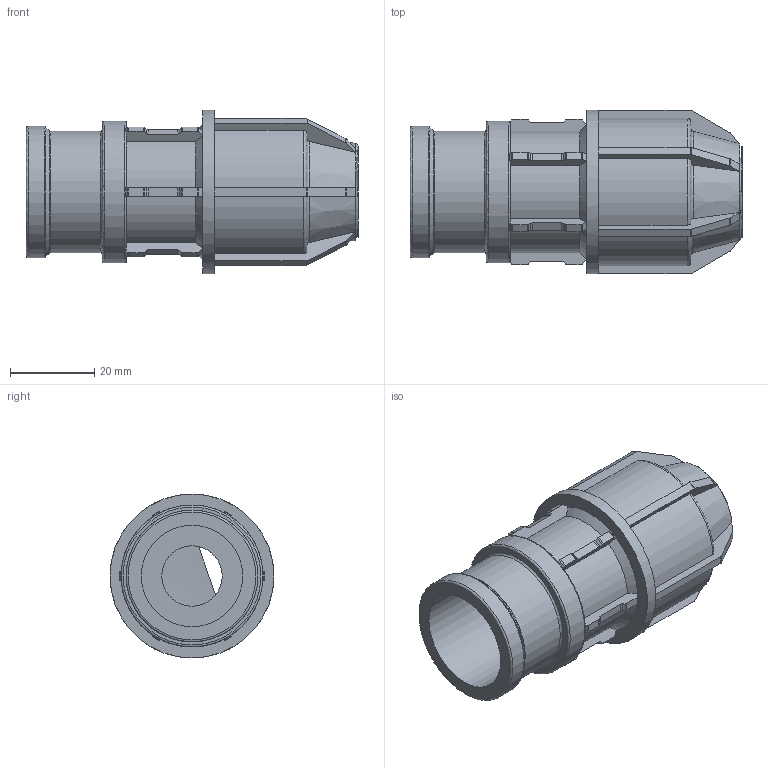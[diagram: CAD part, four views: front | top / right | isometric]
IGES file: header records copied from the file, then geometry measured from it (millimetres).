
Global section: file name: 140300016007.ipt; native system: Autodesk Inventor 2015; preprocessor: unknown; author: KIM; date: 20180409.131002; units: millimetre
Bounding box: 79 x 39 x 39 mm (x, y, z)
Volume: 41536.4 mm3; surface area: 15858.6 mm2
Topology: 1 solids, 1 shells, 255 faces, 716 edges, 463 vertices
Faces by surface type: plane 159, cylinder 52, revolution 36, cone 8
Full cylindrical faces by diameter (mm): 28.94 x1, 31.352 x1, 33.764 x1, 39 x1
